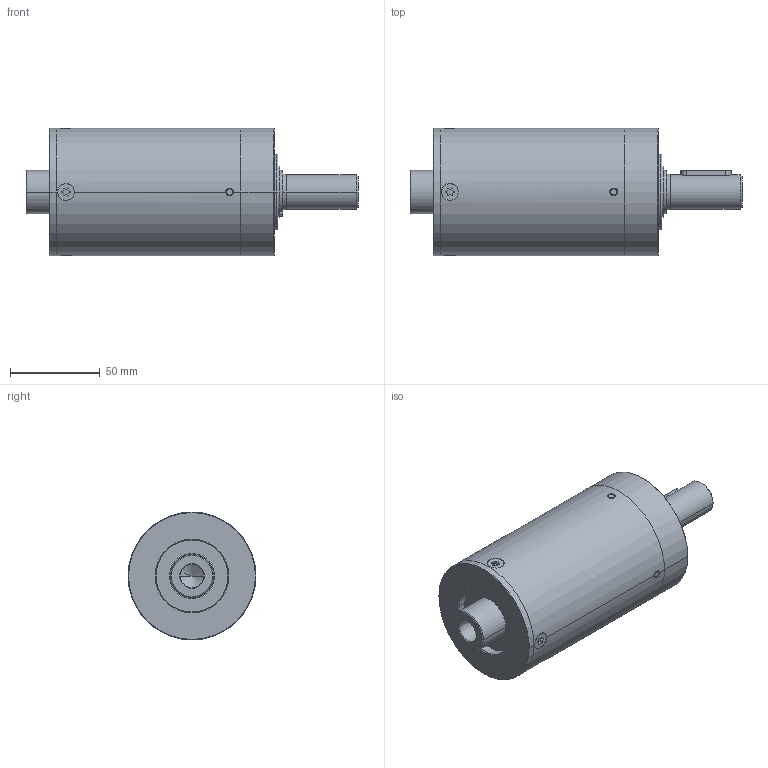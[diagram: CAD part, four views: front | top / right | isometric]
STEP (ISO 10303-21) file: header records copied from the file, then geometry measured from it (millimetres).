
FILE_DESCRIPTION((''),'2;1');
FILE_NAME('IMS71_PRO_MAX_3_STAGE_ASM','2023-07-27T09:46:41',('mhummel'),(''),'CREO PARAMETRIC BY PTC INC, 2020184','CREO PARAMETRIC BY PTC INC, 2020184','');
FILE_SCHEMA(('AUTOMOTIVE_DESIGN { 1 0 10303 214 1 1 1 1 }'));
Length unit declared in the file: millimetre
Products named in the file (16): IMS71_PRO_MAX_BEARING_FLANGE; IMS71_PRO_MAX_BALL_BEARING; IMS71_PRO_MAX_RING_GEAR_3; IMS71_PRO_MAX_CYLINDER_PIN; IMS71_PRO_MAX_RING_GEAR_3_STAGE_ASM; IMS71_PRO_MAX_MOTOR_FLANGE; IMS71_PRO_MAX_SHAFT_RAW_AF0; IMS71_PRO_MAX_SHAFT_ASM; IMS71_PRO_MAX_SHIM_RING; IMS71_PRO_MAX_RETAINING_RING_A; IMS71_PRO_MAX_FEATHER_KEY; IMS71_PRO_MAX_THRUST_WASHER; IMS71_PRO_MAX_SCREW; IMS71_PRO_MAX_MO_PINION_LONG; IMS71_PRO_MAX_MO_PINION_SHORT; IMS71_PRO_MAX_3_STAGE_ASM
Assembly tree (22 placements, depth 3):
  IMS71_PRO_MAX_3_STAGE_ASM
    IMS71_PRO_MAX_BEARING_FLANGE
    IMS71_PRO_MAX_BALL_BEARING  x2
    IMS71_PRO_MAX_RING_GEAR_3_STAGE_ASM
      IMS71_PRO_MAX_RING_GEAR_3
      IMS71_PRO_MAX_CYLINDER_PIN  x4
    IMS71_PRO_MAX_MOTOR_FLANGE
    IMS71_PRO_MAX_SHAFT_ASM
      IMS71_PRO_MAX_SHAFT_RAW_AF0
    IMS71_PRO_MAX_SHIM_RING
    IMS71_PRO_MAX_RETAINING_RING_A
    IMS71_PRO_MAX_FEATHER_KEY
    IMS71_PRO_MAX_THRUST_WASHER
    IMS71_PRO_MAX_SCREW  x4
    IMS71_PRO_MAX_MO_PINION_LONG
    IMS71_PRO_MAX_MO_PINION_SHORT
Bounding box: 184.45 x 71 x 71 mm (x, y, z)
Volume: 345866.9 mm3; surface area: 115649.7 mm2
Topology: 24 solids, 26 shells, 484 faces, 1085 edges, 650 vertices
Faces by surface type: cylinder 204, plane 120, cone 84, torus 60, revolution 16
Entity records: 13354 total; most frequent: CARTESIAN_POINT 2276, DIRECTION 1741, ORIENTED_EDGE 1378, PRESENTATION_STYLE_ASSIGNMENT 813, STYLED_ITEM 809, AXIS2_PLACEMENT_3D 729, CURVE_STYLE 693, EDGE_CURVE 689
